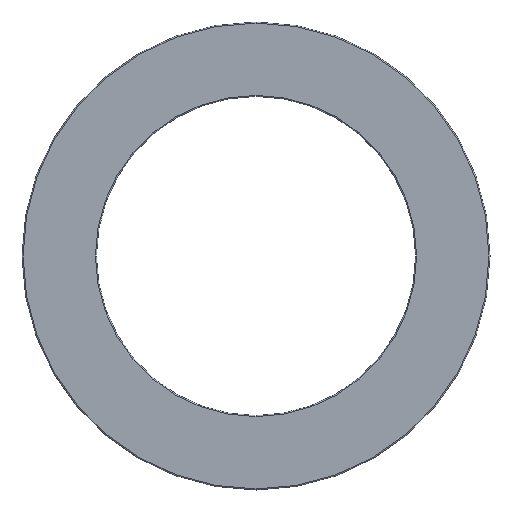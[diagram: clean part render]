
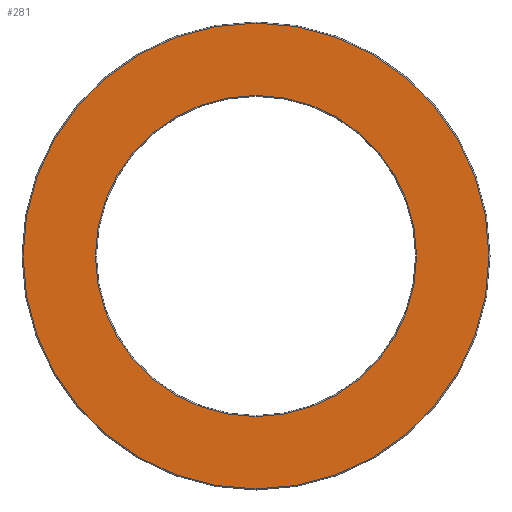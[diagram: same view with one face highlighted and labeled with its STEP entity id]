
A CAD part, front view. The second image highlights one B-rep face of the part: STEP entity #281.
In plain terms, the highlighted planar face has unit normal (0, -1, 0).
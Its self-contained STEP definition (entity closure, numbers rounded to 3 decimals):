
#4 = PLANE ( 'NONE',  #255 ) ;
#17 = EDGE_CURVE ( 'NONE', #197, #143, #130, .T. ) ;
#33 = EDGE_CURVE ( 'NONE', #53, #323, #225, .T. ) ;
#36 = FACE_OUTER_BOUND ( 'NONE', #365, .T. ) ;
#44 = ORIENTED_EDGE ( 'NONE', *, *, #33, .T. ) ;
#53 = VERTEX_POINT ( 'NONE', #388 ) ;
#54 = DIRECTION ( 'NONE',  ( 0., 0., 1. ) ) ;
#77 = DIRECTION ( 'NONE',  ( 0., 1., 0. ) ) ;
#97 = CIRCLE ( 'NONE', #192, 21.9 ) ;
#113 = CARTESIAN_POINT ( 'NONE',  ( 0., 0., 0. ) ) ;
#129 = CARTESIAN_POINT ( 'NONE',  ( 0., 0., -21.9 ) ) ;
#130 = CIRCLE ( 'NONE', #357, 21.9 ) ;
#138 = EDGE_CURVE ( 'NONE', #143, #197, #97, .T. ) ;
#143 = VERTEX_POINT ( 'NONE', #129 ) ;
#149 = DIRECTION ( 'NONE',  ( 0., 1., 0. ) ) ;
#162 = ORIENTED_EDGE ( 'NONE', *, *, #17, .T. ) ;
#163 = EDGE_CURVE ( 'NONE', #323, #53, #368, .T. ) ;
#165 = CARTESIAN_POINT ( 'NONE',  ( 0., 0., 0. ) ) ;
#191 = DIRECTION ( 'NONE',  ( 0., 1., 0. ) ) ;
#192 = AXIS2_PLACEMENT_3D ( 'NONE', #409, #351, #314 ) ;
#193 = DIRECTION ( 'NONE',  ( 0., 0., 1. ) ) ;
#197 = VERTEX_POINT ( 'NONE', #233 ) ;
#225 = CIRCLE ( 'NONE', #315, 15.1 ) ;
#230 = DIRECTION ( 'NONE',  ( 0., 0., 1. ) ) ;
#233 = CARTESIAN_POINT ( 'NONE',  ( 0., 0., 21.9 ) ) ;
#255 = AXIS2_PLACEMENT_3D ( 'NONE', #165, #149, #230 ) ;
#269 = EDGE_LOOP ( 'NONE', ( #44, #335 ) ) ;
#270 = CARTESIAN_POINT ( 'NONE',  ( 0., 0., -15.1 ) ) ;
#277 = DIRECTION ( 'NONE',  ( 0., -1., 0. ) ) ;
#281 = ADVANCED_FACE ( 'NONE', ( #332, #36 ), #4, .F. ) ;
#305 = ORIENTED_EDGE ( 'NONE', *, *, #138, .T. ) ;
#314 = DIRECTION ( 'NONE',  ( 0., 0., 1. ) ) ;
#315 = AXIS2_PLACEMENT_3D ( 'NONE', #113, #77, #385 ) ;
#323 = VERTEX_POINT ( 'NONE', #270 ) ;
#332 = FACE_BOUND ( 'NONE', #269, .T. ) ;
#335 = ORIENTED_EDGE ( 'NONE', *, *, #163, .T. ) ;
#348 = CARTESIAN_POINT ( 'NONE',  ( 0., 0., 0. ) ) ;
#351 = DIRECTION ( 'NONE',  ( 0., -1., 0. ) ) ;
#357 = AXIS2_PLACEMENT_3D ( 'NONE', #403, #277, #54 ) ;
#365 = EDGE_LOOP ( 'NONE', ( #162, #305 ) ) ;
#368 = CIRCLE ( 'NONE', #420, 15.1 ) ;
#385 = DIRECTION ( 'NONE',  ( 0., 0., 1. ) ) ;
#388 = CARTESIAN_POINT ( 'NONE',  ( 0., 0., 15.1 ) ) ;
#403 = CARTESIAN_POINT ( 'NONE',  ( 0., 0., 0. ) ) ;
#409 = CARTESIAN_POINT ( 'NONE',  ( 0., 0., 0. ) ) ;
#420 = AXIS2_PLACEMENT_3D ( 'NONE', #348, #191, #193 ) ;
